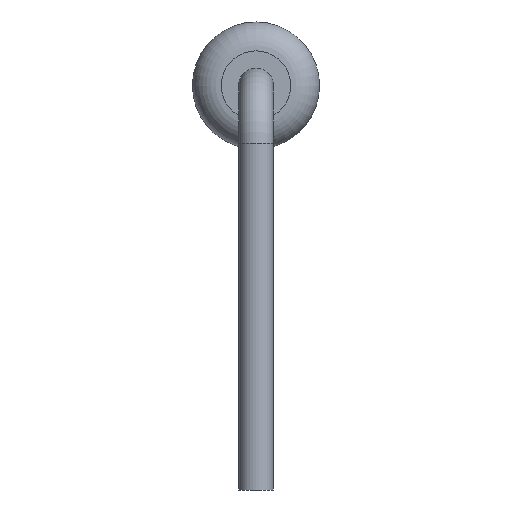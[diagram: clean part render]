
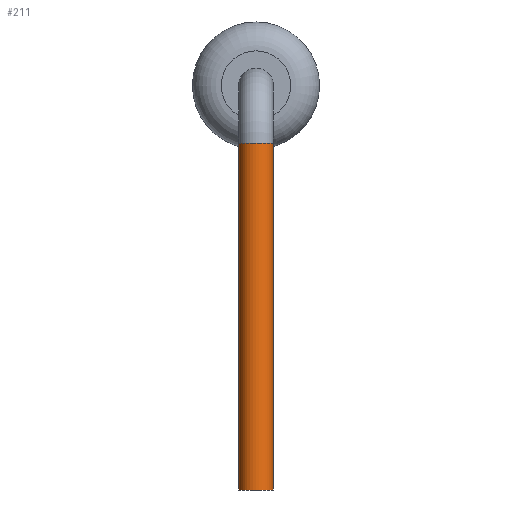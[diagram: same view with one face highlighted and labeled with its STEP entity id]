
A CAD part, left-side view. The second image highlights one B-rep face of the part: STEP entity #211.
In plain terms, the highlighted cylindrical face has radius 0.3 mm (diameter 0.6 mm), a full revolution.
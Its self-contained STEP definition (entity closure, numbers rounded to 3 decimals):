
#211=ADVANCED_FACE('',(#380,#382),#384,.T.);
#380=FACE_OUTER_BOUND('',#381,.T.);
#381=EDGE_LOOP('',(#429));
#382=FACE_OUTER_BOUND('',#383,.T.);
#383=EDGE_LOOP('',(#430));
#384=CYLINDRICAL_SURFACE('',#385,0.3);
#385=AXIS2_PLACEMENT_3D('',#386,#387,#388);
#386=CARTESIAN_POINT('',(-5.,0.,-1.));
#387=DIRECTION('',(0.,0.,-1.));
#388=DIRECTION('',(0.,-1.,0.));
#429=ORIENTED_EDGE('',*,*,#448,.T.);
#430=ORIENTED_EDGE('',*,*,#449,.F.);
#448=EDGE_CURVE('',#482,#482,#483,.T.);
#449=EDGE_CURVE('',#484,#484,#485,.T.);
#482=VERTEX_POINT('',#566);
#483=CIRCLE('',#567,0.3);
#484=VERTEX_POINT('',#571);
#485=CIRCLE('',#572,0.3);
#566=CARTESIAN_POINT('',(-5.,-0.3,-1.));
#567=AXIS2_PLACEMENT_3D('',#568,#569,#570);
#568=CARTESIAN_POINT('',(-5.,0.,-1.));
#569=DIRECTION('',(0.,0.,-1.));
#570=DIRECTION('',(0.,-1.,0.));
#571=CARTESIAN_POINT('',(-5.,-0.3,-7.));
#572=AXIS2_PLACEMENT_3D('',#573,#574,#575);
#573=CARTESIAN_POINT('',(-5.,0.,-7.));
#574=DIRECTION('',(0.,0.,-1.));
#575=DIRECTION('',(0.,-1.,0.));
